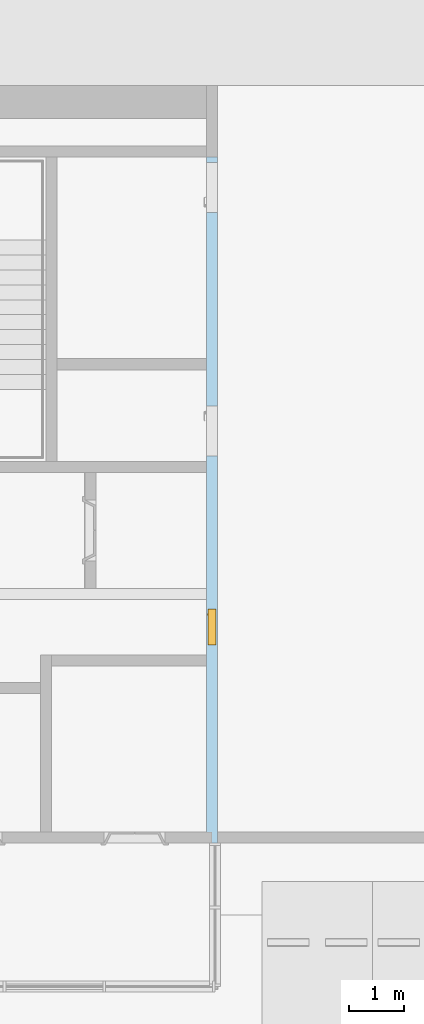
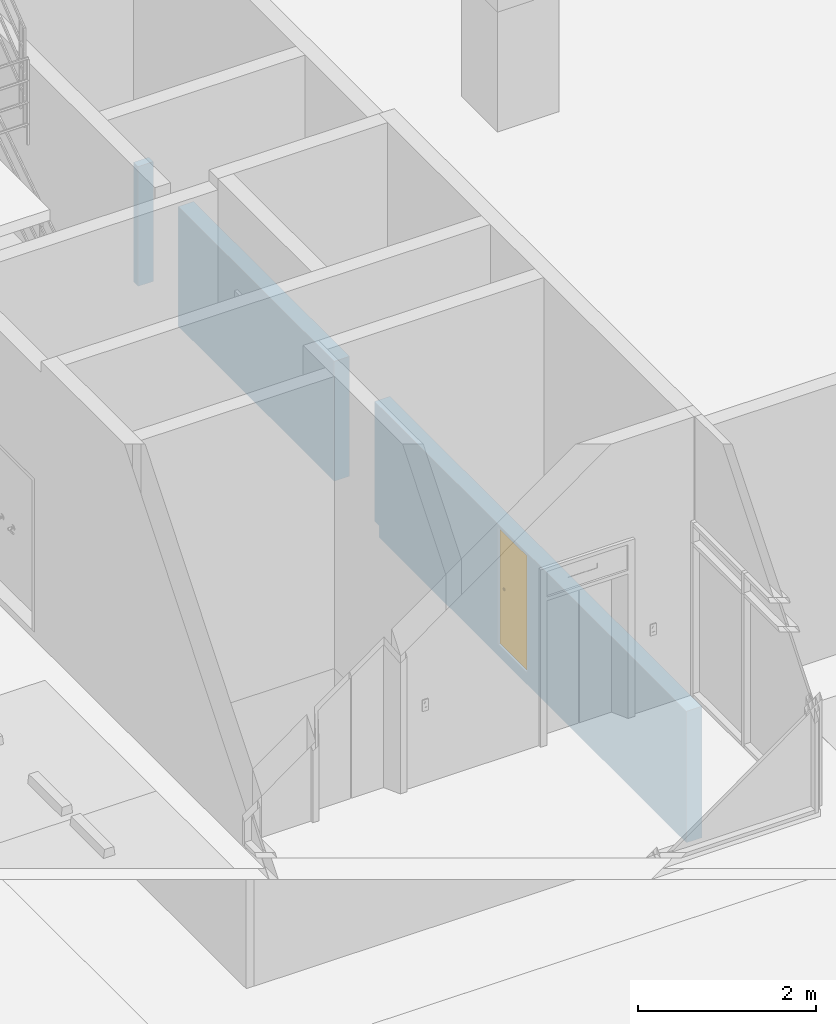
# One storey, part 23 of 30: 1 door, 3 openings, plus 1 element that does not belong to this part.
"""IFC2X3 building model written with IfcOpenShell, lengths in millimetres."""

import ifcopenshell
import ifcopenshell.guid

model = None  # the IFC model being written
_history = None  # IfcOwnerHistory: only IFC2X3 demands one
_inside = {}  # id of a spatial element -> (the spatial element, [elements in it])
_under = {}  # id of a project, library or spatial element -> (it, [spatial elements below it])
_declared = {}  # id of a project -> (the project, [libraries it declares])
_typed = {}  # id of a type object -> (the type object, [elements of that type])
_made_of = {}  # id of a material, layer set ... -> (it, [elements and type objects made of it])


def new_model(schema):
    """Start an empty IFC model of exactly this schema.

    Asked for "IFC4X3", IfcOpenShell would pick the latest addendum, in which some entities
    have other attributes; the version numbers below select the first issue.
    IFC2X3 requires an IfcOwnerHistory on every rooted entity: one is made here for all.
    """
    global model, _history
    if schema == "IFC4X3":
        model = ifcopenshell.file(schema_version=(4, 3, 0, 0))
    else:
        model = ifcopenshell.file(schema=schema)
    _inside.clear()
    _under.clear()
    _declared.clear()
    _typed.clear()
    _made_of.clear()
    _history = None
    if model.schema == "IFC2X3":
        org = make("IfcOrganization", Name="unknown")
        user = make(
            "IfcPersonAndOrganization",
            ThePerson=make("IfcPerson", FamilyName="unknown"),
            TheOrganization=org,
        )
        app = make(
            "IfcApplication",
            ApplicationDeveloper=org,
            Version="unknown",
            ApplicationFullName="unknown",
            ApplicationIdentifier="unknown",
        )
        _history = make(
            "IfcOwnerHistory",
            OwningUser=user,
            OwningApplication=app,
            ChangeAction="ADDED",
            CreationDate=0,
        )
    return model


def make(cls, **values):
    """One entity of the class cls with the attributes given. An attribute that is None is left unset."""
    return model.create_entity(
        cls, **{name: value for name, value in values.items() if value is not None}
    )


def entity(cls, *values):
    """Any entity or typed value of the class cls, its attributes in the order of the schema. None: left unset."""
    e = model.create_entity(cls)
    for i, value in enumerate(values):
        if value is not None:
            e[i] = value
    return e


def rooted(cls, **values):
    """An entity with a GlobalId (a new one), such as an element, a storey or a relation."""
    return make(cls, GlobalId=ifcopenshell.guid.new(), OwnerHistory=_history, **values)


def si_unit(unit_type, name, prefix=None):
    """IfcSIUnit, for example si_unit("LENGTHUNIT", "METRE", prefix="MILLI")."""
    return make("IfcSIUnit", UnitType=unit_type, Prefix=prefix, Name=name)


def converted_unit(unit_type, name, factor, base, dimensions=None, offset=None):
    """IfcConversionBasedUnit, such as the inch: factor (a typed value) times the base unit."""
    return make(
        "IfcConversionBasedUnit"
        if offset is None
        else "IfcConversionBasedUnitWithOffset",
        ConversionOffset=offset,
        Dimensions=None
        if dimensions is None
        else entity("IfcDimensionalExponents", *dimensions),
        UnitType=unit_type,
        Name=name,
        ConversionFactor=make(
            "IfcMeasureWithUnit", ValueComponent=factor, UnitComponent=base
        ),
    )


def derived_unit(unit_type, elements):
    """IfcDerivedUnit: a product of units, each with its exponent."""
    return make(
        "IfcDerivedUnit",
        Elements=[
            make("IfcDerivedUnitElement", Unit=unit, Exponent=power)
            for unit, power in elements
        ],
        UnitType=unit_type,
    )


def assignment(units):
    """IfcUnitAssignment: the units of a project."""
    return None if units is None else make("IfcUnitAssignment", Units=units)


def point(xyz):
    """IfcCartesianPoint."""
    return None if xyz is None else make("IfcCartesianPoint", Coordinates=xyz)


def direction(xyz):
    """IfcDirection."""
    return None if xyz is None else make("IfcDirection", DirectionRatios=xyz)


def frame(location, z_axis=None, x_axis=None):
    """IfcAxis2Placement3D, a coordinate frame: its origin and axes. An axis left out is left unset."""
    return make(
        "IfcAxis2Placement3D",
        Location=point(location),
        Axis=direction(z_axis),
        RefDirection=direction(x_axis),
    )


def frame_2d(location, x_axis=None):
    """IfcAxis2Placement2D, a coordinate frame in the plane: its origin and x axis."""
    return make(
        "IfcAxis2Placement2D", Location=point(location), RefDirection=direction(x_axis)
    )


def origin():
    """The frame at (0, 0, 0) with its axes left unset."""
    return frame((0.0, 0.0, 0.0))


def place(relative_to, where):
    """IfcLocalPlacement: puts the frame where relative to a parent placement (None: the world)."""
    return make(
        "IfcLocalPlacement", PlacementRelTo=relative_to, RelativePlacement=where
    )


def context(
    kind, dimensions, precision=None, world=None, true_north=None, identifier=None
):
    """IfcGeometricRepresentationContext, for example the 3D "Model" context."""
    return make(
        "IfcGeometricRepresentationContext",
        ContextIdentifier=identifier,
        ContextType=kind,
        CoordinateSpaceDimension=dimensions,
        Precision=precision,
        WorldCoordinateSystem=world,
        TrueNorth=true_north,
    )


def subcontext(parent, identifier, kind, view, scale=None):
    """IfcGeometricRepresentationSubContext, for example "Body" below "Model"."""
    return make(
        "IfcGeometricRepresentationSubContext",
        ContextIdentifier=identifier,
        ContextType=kind,
        ParentContext=parent,
        TargetScale=scale,
        TargetView=view,
    )


def project(units=None, contexts=None):
    """IfcProject with its units and contexts."""
    return rooted(
        "IfcProject",
        Name="project",
        RepresentationContexts=contexts,
        UnitsInContext=assignment(units),
    )


def spatial(cls, under=None, at=None, **own):
    """A site, building, storey or space (cls), placed at a placement, below another one or the project."""
    s = rooted(cls, ObjectPlacement=at, **own)
    if under is not None:
        _under.setdefault(under.id(), (under, []))[1].append(s)
    return s


def profile(cls, at=None, kind="AREA", **sizes):
    """A parametric profile (cls). Its sizes go by their IFC names, for example OverallWidth=200.0."""
    return make(cls, ProfileType=kind, Position=at, **sizes)


def rectangle(**sizes):
    """IfcRectangleProfileDef."""
    return profile("IfcRectangleProfileDef", **sizes)


def extrude(swept, where, along, depth):
    """IfcExtrudedAreaSolid: the profile swept, set in the frame where, extruded along a direction by depth."""
    return make(
        "IfcExtrudedAreaSolid",
        SweptArea=swept,
        Position=where,
        ExtrudedDirection=direction(along),
        Depth=depth,
    )


def faces_of(points, faces, orient=None, outer=None):
    """IfcFace entities. A face is a list of loops; a loop is a list of indices into points, from 0.

    orient and outer hold one flag for each loop. By default every Orientation is true, the
    first loop of a face is its IfcFaceOuterBound and the others are IfcFaceBound.
    """
    made = []
    for i, loops in enumerate(faces):
        bounds = []
        for j, loop in enumerate(loops):
            is_outer = j == 0 if outer is None else outer[i][j]
            bounds.append(
                make(
                    "IfcFaceOuterBound" if is_outer else "IfcFaceBound",
                    Bound=make("IfcPolyLoop", Polygon=[points[k] for k in loop]),
                    Orientation=True if orient is None else orient[i][j],
                )
            )
        made.append(make("IfcFace", Bounds=bounds))
    return made


def faceted_brep(points, faces, orient=None, outer=None, voids=None):
    """IfcFacetedBrep: a solid bounded by flat faces; with voids (closed shells), ...WithVoids."""
    shared = [point(p) for p in points]
    hull = make("IfcClosedShell", CfsFaces=faces_of(shared, faces, orient, outer))
    if voids is None:
        return make("IfcFacetedBrep", Outer=hull)
    return make(
        "IfcFacetedBrepWithVoids",
        Outer=hull,
        Voids=[
            make(cls, CfsFaces=faces_of(shared, fs, o, b)) for cls, fs, o, b in voids
        ],
    )


def shape(context_of_items, identifier, shape_type, items):
    """IfcShapeRepresentation: the items that make up one representation, for example the "Body"."""
    return make(
        "IfcShapeRepresentation",
        ContextOfItems=context_of_items,
        RepresentationIdentifier=identifier,
        RepresentationType=shape_type,
        Items=items,
    )


def source(mapping_origin, context_of_items, identifier, shape_type, items):
    """IfcRepresentationMap: a shape defined once, which mapped items show again and again."""
    return make(
        "IfcRepresentationMap",
        MappingOrigin=mapping_origin,
        MappedRepresentation=shape(context_of_items, identifier, shape_type, items),
    )


def transform(
    local_origin,
    x_axis=None,
    y_axis=None,
    z_axis=None,
    scale=None,
    scale2=None,
    scale3=None,
    uniform=True,
):
    """IfcCartesianTransformationOperator3D, or its non-uniform kind. x_axis, y_axis, z_axis: its Axis1, 2, 3."""
    if uniform:
        return make(
            "IfcCartesianTransformationOperator3D",
            Axis1=direction(x_axis),
            Axis2=direction(y_axis),
            LocalOrigin=point(local_origin),
            Scale=scale,
            Axis3=direction(z_axis),
        )
    return make(
        "IfcCartesianTransformationOperator3DnonUniform",
        Axis1=direction(x_axis),
        Axis2=direction(y_axis),
        LocalOrigin=point(local_origin),
        Scale=scale,
        Axis3=direction(z_axis),
        Scale2=scale2,
        Scale3=scale3,
    )


def mapped(mapping_source, mapping_target):
    """IfcMappedItem: shows the shape of a source again, moved by a transform."""
    return make(
        "IfcMappedItem", MappingSource=mapping_source, MappingTarget=mapping_target
    )


def material(Name=None, Category=None):
    """IfcMaterial."""
    return make("IfcMaterial", Name=Name, Category=Category)


def material_list(materials):
    """IfcMaterialList."""
    return make("IfcMaterialList", Materials=materials)


def layer(
    of_material, thickness, ventilated=None, Name=None, Category=None, Priority=None
):
    """IfcMaterialLayer: one layer of a wall or slab, of a material (None: an air gap)."""
    return make(
        "IfcMaterialLayer",
        Material=of_material,
        LayerThickness=thickness,
        IsVentilated=ventilated,
        Name=Name,
        Category=Category,
        Priority=Priority,
    )


def layer_set(layers, Name=None):
    """IfcMaterialLayerSet."""
    return make("IfcMaterialLayerSet", MaterialLayers=layers, LayerSetName=Name)


def made_of(thing, what):
    """Note that an element or type object is made of a material, layer set ...; save() writes the relation."""
    if what is not None:
        _made_of.setdefault(what.id(), (what, []))[1].append(thing)
    return thing


def type_object(cls, material=None, **own):
    """A type object (cls), such as IfcWallType, which elements share."""
    return made_of(rooted(cls, **own), material)


def type_shapes(of_type, sources):
    """Give a type object the sources (RepresentationMaps) that its elements show as mapped items."""
    of_type.RepresentationMaps = sources


def element(
    cls,
    number,
    at=None,
    inside=None,
    cuts=None,
    type_object=None,
    material=None,
    context=None,
    identifier="Body",
    shape_type=None,
    held_by="IfcProductDefinitionShape",
    body=None,
    shapes=None,
    **own,
):
    """One element of the class cls, such as IfcWall. Its Tag is "e" and its number.

    at: its placement. inside: the storey or other place that contains it. cuts: it is an
    opening in that element (IfcRelVoidsElement). A single representation is given by context,
    identifier, shape_type and body (its items); several are given by shapes. held_by: the class
    of the entity that holds the representations. save() writes the other relations.
    """
    e = rooted(cls, Tag="e%d" % number, ObjectPlacement=at, **own)
    if body is not None:
        shapes = [shape(context, identifier, shape_type, body)]
    if shapes is not None:
        e.Representation = make(held_by, Representations=shapes)
    if inside is not None:
        _inside.setdefault(inside.id(), (inside, []))[1].append(e)
    if cuts is not None:
        rooted(
            "IfcRelVoidsElement", RelatingBuildingElement=cuts, RelatedOpeningElement=e
        )
    if type_object is not None:
        _typed.setdefault(type_object.id(), (type_object, []))[1].append(e)
    return made_of(e, material)


def fill(opening, filler):
    """IfcRelFillsElement: the door or window that sits in an opening."""
    return rooted(
        "IfcRelFillsElement",
        RelatingOpeningElement=opening,
        RelatedBuildingElement=filler,
    )


def aggregate(whole, parts):
    """IfcRelAggregates: a whole, such as a stair, and the parts it consists of."""
    return rooted("IfcRelAggregates", RelatingObject=whole, RelatedObjects=parts)


def save(model, path):
    """Write the relations noted so far, then the file.

    IfcRelAggregates (storeys below a building ...), IfcRelContainedInSpatialStructure (elements
    in a storey), IfcRelDefinesByType, IfcRelAssociatesMaterial and IfcRelDeclares: one each for
    every whole, place, type object, material and project.
    """
    for whole, parts in _under.values():
        aggregate(whole, parts)
    for where, things in _inside.values():
        rooted(
            "IfcRelContainedInSpatialStructure",
            RelatedElements=things,
            RelatingStructure=where,
        )
    for kind, things in _typed.values():
        rooted("IfcRelDefinesByType", RelatedObjects=things, RelatingType=kind)
    for what, things in _made_of.values():
        rooted("IfcRelAssociatesMaterial", RelatedObjects=things, RelatingMaterial=what)
    for by, libraries in _declared.values():
        rooted("IfcRelDeclares", RelatingContext=by, RelatedDefinitions=libraries)
    model.write(path)


model = new_model("IFC2X3")

# Units and contexts
model_context = context("Model", 3, precision=0.01, world=origin(), true_north=direction((6.123031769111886e-17, 1.0)))
body_context = subcontext(model_context, "Body", "Model", "MODEL_VIEW")
ifc_project = project(units=[si_unit("LENGTHUNIT", "METRE", prefix="MILLI"), si_unit("AREAUNIT", "SQUARE_METRE"), si_unit("VOLUMEUNIT", "CUBIC_METRE"), converted_unit("PLANEANGLEUNIT", "DEGREE", entity("IfcRatioMeasure", 0.017453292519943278), si_unit("PLANEANGLEUNIT", "RADIAN"), dimensions=[0, 0, 0, 0, 0, 0, 0]), si_unit("MASSUNIT", "GRAM", prefix="KILO"), derived_unit("MASSDENSITYUNIT", [(si_unit("MASSUNIT", "GRAM", prefix="KILO"), 1), (si_unit("LENGTHUNIT", "METRE"), -3)]), derived_unit("MOMENTOFINERTIAUNIT", [(si_unit("LENGTHUNIT", "METRE"), 4)]), si_unit("TIMEUNIT", "SECOND"), si_unit("FREQUENCYUNIT", "HERTZ"), si_unit("THERMODYNAMICTEMPERATUREUNIT", "DEGREE_CELSIUS"), derived_unit("THERMALTRANSMITTANCEUNIT", [(si_unit("MASSUNIT", "GRAM", prefix="KILO"), 1), (si_unit("THERMODYNAMICTEMPERATUREUNIT", "KELVIN"), -1), (si_unit("TIMEUNIT", "SECOND"), -3)]), derived_unit("VOLUMETRICFLOWRATEUNIT", [(si_unit("LENGTHUNIT", "METRE"), 3), (si_unit("TIMEUNIT", "SECOND"), -1)]), derived_unit("MASSFLOWRATEUNIT", [(si_unit("MASSUNIT", "GRAM", prefix="KILO"), 1), (si_unit("TIMEUNIT", "SECOND"), -1)]), derived_unit("ROTATIONALFREQUENCYUNIT", [(si_unit("TIMEUNIT", "SECOND"), -1)]), si_unit("ELECTRICCURRENTUNIT", "AMPERE"), si_unit("ELECTRICVOLTAGEUNIT", "VOLT"), si_unit("POWERUNIT", "WATT"), si_unit("FORCEUNIT", "NEWTON", prefix="KILO"), si_unit("ILLUMINANCEUNIT", "LUX"), si_unit("LUMINOUSFLUXUNIT", "LUMEN"), si_unit("LUMINOUSINTENSITYUNIT", "CANDELA"), derived_unit("USERDEFINED", [(si_unit("MASSUNIT", "GRAM", prefix="KILO"), -1), (si_unit("LENGTHUNIT", "METRE"), -2), (si_unit("TIMEUNIT", "SECOND"), 3), (si_unit("LUMINOUSFLUXUNIT", "LUMEN"), 1)]), derived_unit("SOUNDPOWERUNIT", [(si_unit("MASSUNIT", "GRAM", prefix="KILO"), 1), (si_unit("LENGTHUNIT", "METRE"), 2), (si_unit("TIMEUNIT", "SECOND"), -3)]), derived_unit("SOUNDPRESSUREUNIT", [(si_unit("MASSUNIT", "GRAM", prefix="KILO"), 1), (si_unit("LENGTHUNIT", "METRE"), -1), (si_unit("TIMEUNIT", "SECOND"), -2)]), derived_unit("LINEARVELOCITYUNIT", [(si_unit("LENGTHUNIT", "METRE"), 1), (si_unit("TIMEUNIT", "SECOND"), -1)]), si_unit("PRESSUREUNIT", "PASCAL"), derived_unit("USERDEFINED", [(si_unit("LENGTHUNIT", "METRE"), -2), (si_unit("MASSUNIT", "GRAM", prefix="KILO"), 1), (si_unit("TIMEUNIT", "SECOND"), -2)]), derived_unit("LINEARFORCEUNIT", [(si_unit("MASSUNIT", "GRAM", prefix="KILO"), 1), (si_unit("LENGTHUNIT", "METRE"), 1), (si_unit("TIMEUNIT", "SECOND"), -2), (si_unit("LENGTHUNIT", "METRE"), -1)]), derived_unit("PLANARFORCEUNIT", [(si_unit("MASSUNIT", "GRAM", prefix="KILO"), 1), (si_unit("LENGTHUNIT", "METRE"), 1), (si_unit("TIMEUNIT", "SECOND"), -2), (si_unit("LENGTHUNIT", "METRE"), -2)])], contexts=[model_context])

# Site, building, storey
site_placement = place(None, frame((-14167.972527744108, -657.2125860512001, 0.0)))
site = spatial("IfcSite", under=ifc_project, at=site_placement, Name="Default", CompositionType="ELEMENT")
building_placement = place(site_placement, origin())
building = spatial("IfcBuilding", under=site, at=building_placement, Name="Sample Building", CompositionType="ELEMENT")
storey_placement = place(building_placement, frame((0.0, 0.0, -10100.0)))
storey = spatial("IfcBuildingStorey", under=building, at=storey_placement, Name="지하2층", CompositionType="ELEMENT", Elevation=-10100.0)

# Wall, openings, door
ifc_material_1 = material(Name="KBIMS-콘크리트")
ifc_layer = layer(ifc_material_1, 200.0)
ifc_layer_set = layer_set([ifc_layer], Name="기본 벽:WA111-철근콘크리트구조 벽 200mm_CW1")
wall_type = type_object("IfcWallType", Name="기본 벽:WA111-철근콘크리트구조 벽 200mm_CW1", PredefinedType="STANDARD", material=ifc_layer_set)
wall_placement = place(storey_placement, frame((35867.97249113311, 15557.21230798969, -1800.0), z_axis=(0.0, 0.0, 1.0), x_axis=(0.0, 1.0, 0.0)))
wall = element("IfcWall", 1, at=wall_placement, inside=storey, type_object=wall_type, Name="기본 벽:WA111-철근콘크리트구조 벽 200mm_CW1", ObjectType="기본 벽:WA111-철근콘크리트구조 벽 200mm_CW1", context=body_context, shape_type="Brep", body=[
    faceted_brep([(7000.0, -100.0, 160.0), (7000.0, -100.0, 1800.0), (0.0, -100.0, 1800.0), (0.0, -100.0, 160.0), (0.0, -100.0, 0.0), (6900.0, -100.0, 0.0), (6900.0, -100.0, 160.0), (3575.0, -100.0, 160.0), (3575.0, -100.0, 1760.0), (4225.0, -100.0, 1760.0), (4225.0, -100.0, 160.0), (0.0, 100.0, 0.0), (6900.0, 100.0, 0.0), (6900.0, 100.0, 160.0), (7000.0, 100.0, 160.0), (0.0, 100.0, 1800.0), (7000.0, 100.0, 1800.0), (3575.0, 100.0, 160.0), (3575.0, 100.0, 1760.0), (4225.0, 100.0, 1760.0), (4225.0, 100.0, 160.0)], [[[0, 1, 2, 3, 4, 5, 6], [7, 8, 9, 10]], [[4, 11, 12, 5]], [[6, 13, 14, 0]], [[15, 11, 4, 3, 2]], [[13, 6, 5, 12]], [[1, 0, 14, 16]], [[8, 7, 17, 18]], [[10, 9, 19, 20]], [[7, 10, 20, 17]], [[8, 18, 19, 9]], [[1, 16, 15, 2]], [[11, 15, 16, 14, 13, 12], [18, 17, 20, 19]]]),
    faceted_brep([(12300.0, 100.0, 160.0), (12300.0, 100.0, 1800.0), (12400.0, 100.0, 1800.0), (12400.0, 100.0, 160.0), (12400.0, -100.0, 1800.0), (12400.0, -100.0, 160.0), (12300.0, -100.0, 160.0), (12300.0, -100.0, 1800.0)], [[[0, 1, 2, 3]], [[2, 4, 5, 3]], [[6, 7, 1, 0]], [[5, 6, 0, 3]], [[1, 7, 4, 2]], [[7, 6, 5, 4]]]),
    faceted_brep([(11400.0, -100.0, 1800.0), (11400.0, 100.0, 1800.0), (7900.0, 100.0, 1800.0), (7900.0, -100.0, 1800.0), (11400.0, -100.0, 160.0), (11400.0, 100.0, 160.0), (7900.0, -100.0, 160.0), (7900.0, 100.0, 160.0)], [[[0, 1, 2, 3]], [[0, 4, 5, 1]], [[6, 3, 2, 7]], [[4, 6, 7, 5]], [[1, 5, 7, 2]], [[4, 0, 3, 6]]]),
])
opening_1_placement = place(wall_placement, frame((11400.0, -100.0, 160.0)))
element("IfcOpeningElement", 2, at=opening_1_placement, cuts=wall, Name="DR111-외여닫이문(철재, 일반):DR111-외여닫이문(철재, 일반) 900x2100mm:1", ObjectType="Opening", context=body_context, shape_type="SweptSolid", body=[
    extrude(rectangle(XDim=2099.999999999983, YDim=900.0000000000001, at=frame_2d((1049.999999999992, 450.00000000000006), x_axis=(1.0, 0.0))), frame((0.0, 0.0, 0.0), z_axis=(0.0, 1.0, 0.0), x_axis=(0.0, 0.0, 1.0)), (0.0, 0.0, 1.0), 200.0),
])
opening_2_placement = place(wall_placement, frame((7000.0, -100.0, 160.0)))
element("IfcOpeningElement", 3, at=opening_2_placement, cuts=wall, Name="DR111-외여닫이문(철재, 일반):DR111-외여닫이문(철재, 일반) 900x2100mm:1", ObjectType="Opening", context=body_context, shape_type="SweptSolid", body=[
    extrude(rectangle(XDim=2099.999999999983, YDim=900.0000000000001, at=frame_2d((1049.999999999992, 450.00000000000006), x_axis=(1.0, 0.0))), frame((0.0, 0.0, 0.0), z_axis=(0.0, 1.0, 0.0), x_axis=(0.0, 0.0, 1.0)), (0.0, 0.0, 1.0), 200.0),
])
opening_3_placement = place(wall_placement, frame((3575.0, -100.0, 160.0)))
opening_3 = element("IfcOpeningElement", 4, at=opening_3_placement, cuts=wall, Name="DR872-샤프트 점검구(스테인리스 스틸):DR872-샤프트 점검구(스테인리스 스틸)_650x1600:1", ObjectType="Opening", context=body_context, shape_type="SweptSolid", body=[
    extrude(rectangle(XDim=1600.0, YDim=649.9999999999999, at=frame_2d((800.0, 325.00000000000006), x_axis=(1.0, 0.0))), frame((0.0, 0.0, 0.0), z_axis=(0.0, 1.0, 0.0), x_axis=(0.0, 0.0, 1.0)), (0.0, 0.0, 1.0), 200.0),
])
ifc_material_2 = material(Name="KBIMS-스테인리스 스틸_도금")
ifc_material_list_1 = material_list([ifc_material_2, ifc_material_2, ifc_material_2, ifc_material_2])
ifc_material_list_2 = material_list([ifc_material_2, ifc_material_2, ifc_material_2, ifc_material_2])
door_style = type_object("IfcDoorStyle", Name="DR872-샤프트 점검구(스테인리스 스틸):DR872-샤프트 점검구(스테인리스 스틸)_650x1600", ConstructionType="NOTDEFINED", OperationType="SINGLE_SWING_RIGHT", ParameterTakesPrecedence=False, Sizeable=False, material=ifc_material_list_2)
shared_shape = source(origin(), body_context, "Body", "Brep", [
    faceted_brep([(547.5000000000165, 125.0, 787.0096189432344), (540.8578643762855, 125.0, 785.85786437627), (545.0, 125.0, 782.6794919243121), (544.3933982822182, 125.0, 789.3933982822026), (551.1177143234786, 125.0, 785.5111126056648), (537.6794919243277, 125.0, 790.0), (542.0096189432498, 125.0, 792.5000000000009), (540.5111126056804, 125.0, 796.1177143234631), (535.6814834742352, 125.0, 794.8236190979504), (540.0, 125.0, 800.0), (535.0, 125.0, 800.0), (540.5111126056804, 125.0, 803.8822856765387), (535.681483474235, 125.0, 805.1763809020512), (542.0096189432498, 125.0, 807.5000000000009), (537.6794919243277, 125.0, 810.0), (544.3933982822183, 125.0, 810.6066017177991), (540.8578643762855, 125.0, 814.1421356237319), (547.5000000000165, 125.0, 812.9903810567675), (545.0, 125.0, 817.3205080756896), (551.1177143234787, 125.0, 814.4888873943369), (549.823619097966, 125.0, 819.3185165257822), (555.0, 125.0, 815.0), (555.0, 125.0, 820.0), (558.8822856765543, 125.0, 814.4888873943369), (560.1763809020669, 125.0, 819.3185165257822), (562.5000000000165, 125.0, 812.9903810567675), (565.0, 125.0, 817.3205080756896), (565.6066017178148, 125.0, 810.6066017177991), (569.1421356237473, 125.0, 814.142135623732), (567.9903810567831, 125.0, 807.5000000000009), (572.3205080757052, 125.0, 810.0), (574.3185165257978, 125.0, 805.1763809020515), (569.4888873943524, 125.0, 803.8822856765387), (575.0, 125.0, 800.0), (570.0, 125.0, 800.0), (574.3185165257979, 125.0, 794.8236190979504), (569.4888873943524, 125.0, 796.117714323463), (572.3205080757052, 125.0, 790.0), (567.990381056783, 125.0, 792.5000000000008), (569.1421356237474, 125.0, 785.85786437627), (565.6066017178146, 125.0, 789.3933982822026), (565.0, 125.0, 782.6794919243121), (562.5000000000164, 125.0, 787.0096189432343), (560.176380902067, 125.0, 780.6814834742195), (558.8822856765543, 125.0, 785.5111126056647), (555.0, 125.0, 780.0), (555.0, 125.0, 785.0), (549.8236190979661, 125.0, 780.6814834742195), (547.5000000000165, 130.0, 812.9903810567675), (540.8578643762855, 130.0, 814.1421356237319), (545.0, 130.0, 817.3205080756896), (544.3933982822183, 130.0, 810.6066017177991), (551.1177143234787, 130.0, 814.4888873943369), (537.6794919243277, 130.0, 810.0), (542.0096189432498, 130.0, 807.5000000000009), (540.5111126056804, 130.0, 803.8822856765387), (535.681483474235, 130.0, 805.1763809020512), (540.0, 130.0, 800.0), (535.0, 130.0, 800.0), (540.5111126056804, 130.0, 796.1177143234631), (535.6814834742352, 130.0, 794.8236190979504), (542.0096189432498, 130.0, 792.5000000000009), (537.6794919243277, 130.0, 790.0), (544.3933982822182, 130.0, 789.3933982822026), (540.8578643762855, 130.0, 785.85786437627), (547.5000000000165, 130.0, 787.0096189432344), (545.0, 130.0, 782.6794919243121), (551.1177143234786, 130.0, 785.5111126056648), (549.8236190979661, 130.0, 780.6814834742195), (555.0, 130.0, 785.0), (555.0, 130.0, 780.0), (558.8822856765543, 130.0, 785.5111126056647), (560.176380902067, 130.0, 780.6814834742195), (562.5000000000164, 130.0, 787.0096189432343), (565.0, 130.0, 782.6794919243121), (565.6066017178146, 130.0, 789.3933982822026), (569.1421356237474, 130.0, 785.85786437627), (567.990381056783, 130.0, 792.5000000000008), (572.3205080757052, 130.0, 790.0), (574.3185165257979, 130.0, 794.8236190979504), (569.4888873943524, 130.0, 796.117714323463), (575.0, 130.0, 800.0), (570.0, 130.0, 800.0), (574.3185165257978, 130.0, 805.1763809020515), (569.4888873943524, 130.0, 803.8822856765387), (572.3205080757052, 130.0, 810.0), (567.9903810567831, 130.0, 807.5000000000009), (569.1421356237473, 130.0, 814.142135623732), (565.6066017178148, 130.0, 810.6066017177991), (565.0, 130.0, 817.3205080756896), (562.5000000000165, 130.0, 812.9903810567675), (560.1763809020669, 130.0, 819.3185165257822), (558.8822856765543, 130.0, 814.4888873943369), (555.0, 130.0, 820.0), (555.0, 130.0, 815.0), (549.823619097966, 130.0, 819.3185165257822)], [[[0, 1, 2]], [[3, 1, 0]], [[4, 0, 2]], [[1, 3, 5]], [[5, 3, 6]], [[5, 6, 7]], [[8, 5, 7]], [[9, 8, 7]], [[10, 8, 9]], [[10, 9, 11]], [[12, 10, 11]], [[12, 11, 13]], [[14, 12, 13]], [[14, 13, 15]], [[15, 16, 14]], [[15, 17, 16]], [[18, 16, 17]], [[19, 18, 17]], [[18, 19, 20]], [[21, 20, 19]], [[22, 20, 21]], [[21, 23, 22]], [[24, 22, 23]], [[25, 24, 23]], [[24, 25, 26]], [[25, 27, 26]], [[27, 28, 26]], [[28, 27, 29]], [[28, 29, 30]], [[30, 29, 31]], [[31, 29, 32]], [[33, 31, 32]], [[32, 34, 33]], [[33, 34, 35]], [[34, 36, 35]], [[37, 35, 36]], [[37, 36, 38]], [[39, 37, 38]], [[40, 39, 38]], [[40, 41, 39]], [[42, 41, 40]], [[43, 41, 42]], [[42, 44, 43]], [[43, 44, 45]], [[46, 45, 44]], [[46, 4, 47]], [[45, 46, 47]], [[2, 47, 4]], [[48, 49, 50]], [[51, 49, 48]], [[52, 48, 50]], [[49, 51, 53]], [[53, 51, 54]], [[53, 54, 55]], [[56, 53, 55]], [[57, 56, 55]], [[58, 56, 57]], [[58, 57, 59]], [[60, 58, 59]], [[60, 59, 61]], [[62, 60, 61]], [[62, 61, 63]], [[63, 64, 62]], [[63, 65, 64]], [[66, 64, 65]], [[67, 66, 65]], [[66, 67, 68]], [[69, 68, 67]], [[70, 68, 69]], [[69, 71, 70]], [[72, 70, 71]], [[73, 72, 71]], [[72, 73, 74]], [[73, 75, 74]], [[75, 76, 74]], [[76, 75, 77]], [[76, 77, 78]], [[78, 77, 79]], [[79, 77, 80]], [[81, 79, 80]], [[80, 82, 81]], [[81, 82, 83]], [[82, 84, 83]], [[85, 83, 84]], [[85, 84, 86]], [[87, 85, 86]], [[88, 87, 86]], [[88, 89, 87]], [[90, 89, 88]], [[91, 89, 90]], [[90, 92, 91]], [[91, 92, 93]], [[94, 93, 92]], [[94, 52, 95]], [[93, 94, 95]], [[50, 95, 52]], [[7, 59, 57, 9]], [[6, 61, 59, 7]], [[63, 3, 0, 65]], [[6, 3, 63, 61]], [[65, 0, 4, 67]], [[67, 4, 46, 69]], [[42, 73, 71, 44]], [[40, 75, 73, 42]], [[77, 38, 36, 80]], [[40, 38, 77, 75]], [[80, 36, 34, 82]], [[71, 69, 46, 44]], [[32, 84, 82, 34]], [[29, 86, 84, 32]], [[88, 27, 25, 90]], [[29, 27, 88, 86]], [[90, 25, 23, 92]], [[92, 23, 21, 94]], [[17, 48, 52, 19]], [[15, 51, 48, 17]], [[54, 13, 11, 55]], [[15, 13, 54, 51]], [[55, 11, 9, 57]], [[52, 94, 21, 19]], [[58, 10, 12, 56]], [[56, 12, 14, 53]], [[50, 49, 16, 18]], [[16, 49, 53, 14]], [[95, 50, 18, 20]], [[95, 20, 22, 93]], [[93, 22, 24, 91]], [[91, 24, 26, 89]], [[85, 87, 28, 30]], [[28, 87, 89, 26]], [[83, 85, 30, 31]], [[83, 31, 33, 81]], [[81, 33, 35, 79]], [[79, 35, 37, 78]], [[74, 76, 39, 41]], [[39, 76, 78, 37]], [[72, 74, 41, 43]], [[72, 43, 45, 70]], [[70, 45, 47, 68]], [[68, 47, 2, 66]], [[62, 64, 1, 5]], [[1, 64, 66, 2]], [[60, 62, 5, 8]], [[60, 8, 10, 58]]]),
    faceted_brep([(562.5000000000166, 180.0, 787.0096189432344), (569.1421356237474, 180.0, 785.85786437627), (565.0, 180.0, 782.6794919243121), (565.6066017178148, 180.0, 789.3933982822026), (558.8822856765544, 180.0, 785.5111126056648), (572.3205080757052, 180.0, 790.0), (567.9903810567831, 180.0, 792.5000000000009), (569.4888873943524, 180.0, 796.1177143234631), (574.3185165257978, 180.0, 794.8236190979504), (570.0, 180.0, 800.0), (575.0, 180.0, 800.0), (569.4888873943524, 180.0, 803.8822856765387), (574.3185165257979, 180.0, 805.1763809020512), (567.990381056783, 180.0, 807.5000000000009), (572.3205080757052, 180.0, 810.0), (565.6066017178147, 180.0, 810.6066017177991), (569.1421356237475, 180.0, 814.1421356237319), (562.5000000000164, 180.0, 812.9903810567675), (565.0, 180.0, 817.3205080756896), (558.8822856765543, 180.0, 814.4888873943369), (560.176380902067, 180.0, 819.3185165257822), (555.0, 180.0, 815.0), (555.0, 180.0, 820.0), (551.1177143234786, 180.0, 814.4888873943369), (549.8236190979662, 180.0, 819.3185165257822), (547.5000000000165, 180.0, 812.9903810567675), (545.0, 180.0, 817.3205080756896), (544.3933982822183, 180.0, 810.6066017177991), (540.8578643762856, 180.0, 814.142135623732), (542.0096189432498, 180.0, 807.5000000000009), (537.6794919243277, 180.0, 810.0), (535.6814834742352, 180.0, 805.1763809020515), (540.5111126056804, 180.0, 803.8822856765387), (535.0, 180.0, 800.0), (540.0, 180.0, 800.0), (535.681483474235, 180.0, 794.8236190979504), (540.5111126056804, 180.0, 796.117714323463), (537.6794919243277, 180.0, 790.0), (542.00961894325, 180.0, 792.5000000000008), (540.8578643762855, 180.0, 785.85786437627), (544.3933982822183, 180.0, 789.3933982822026), (545.0, 180.0, 782.6794919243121), (547.5000000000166, 180.0, 787.0096189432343), (549.823619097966, 180.0, 780.6814834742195), (551.1177143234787, 180.0, 785.5111126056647), (555.0, 180.0, 780.0), (555.0, 180.0, 785.0), (560.1763809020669, 180.0, 780.6814834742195), (562.5000000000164, 175.0, 812.9903810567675), (569.1421356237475, 175.0, 814.1421356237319), (565.0, 175.0, 817.3205080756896), (565.6066017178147, 175.0, 810.6066017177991), (558.8822856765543, 175.0, 814.4888873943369), (572.3205080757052, 175.0, 810.0), (567.990381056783, 175.0, 807.5000000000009), (569.4888873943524, 175.0, 803.8822856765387), (574.3185165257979, 175.0, 805.1763809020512), (570.0, 175.0, 800.0), (575.0, 175.0, 800.0), (569.4888873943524, 175.0, 796.1177143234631), (574.3185165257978, 175.0, 794.8236190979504), (567.9903810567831, 175.0, 792.5000000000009), (572.3205080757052, 175.0, 790.0), (565.6066017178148, 175.0, 789.3933982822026), (569.1421356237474, 175.0, 785.85786437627), (562.5000000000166, 175.0, 787.0096189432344), (565.0, 175.0, 782.6794919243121), (558.8822856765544, 175.0, 785.5111126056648), (560.1763809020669, 175.0, 780.6814834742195), (555.0, 175.0, 785.0), (555.0, 175.0, 780.0), (551.1177143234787, 175.0, 785.5111126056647), (549.823619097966, 175.0, 780.6814834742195), (547.5000000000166, 175.0, 787.0096189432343), (545.0, 175.0, 782.6794919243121), (544.3933982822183, 175.0, 789.3933982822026), (540.8578643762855, 175.0, 785.85786437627), (542.00961894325, 175.0, 792.5000000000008), (537.6794919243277, 175.0, 790.0), (535.681483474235, 175.0, 794.8236190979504), (540.5111126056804, 175.0, 796.117714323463), (535.0, 175.0, 800.0), (540.0, 175.0, 800.0), (535.6814834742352, 175.0, 805.1763809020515), (540.5111126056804, 175.0, 803.8822856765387), (537.6794919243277, 175.0, 810.0), (542.0096189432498, 175.0, 807.5000000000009), (540.8578643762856, 175.0, 814.142135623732), (544.3933982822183, 175.0, 810.6066017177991), (545.0, 175.0, 817.3205080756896), (547.5000000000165, 175.0, 812.9903810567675), (549.8236190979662, 175.0, 819.3185165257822), (551.1177143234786, 175.0, 814.4888873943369), (555.0, 175.0, 820.0), (555.0, 175.0, 815.0), (560.176380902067, 175.0, 819.3185165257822)], [[[0, 1, 2]], [[3, 1, 0]], [[4, 0, 2]], [[1, 3, 5]], [[5, 3, 6]], [[5, 6, 7]], [[8, 5, 7]], [[9, 8, 7]], [[10, 8, 9]], [[10, 9, 11]], [[12, 10, 11]], [[12, 11, 13]], [[14, 12, 13]], [[14, 13, 15]], [[15, 16, 14]], [[15, 17, 16]], [[18, 16, 17]], [[19, 18, 17]], [[18, 19, 20]], [[21, 20, 19]], [[22, 20, 21]], [[21, 23, 22]], [[24, 22, 23]], [[25, 24, 23]], [[24, 25, 26]], [[25, 27, 26]], [[27, 28, 26]], [[28, 27, 29]], [[28, 29, 30]], [[30, 29, 31]], [[31, 29, 32]], [[33, 31, 32]], [[32, 34, 33]], [[33, 34, 35]], [[34, 36, 35]], [[37, 35, 36]], [[37, 36, 38]], [[39, 37, 38]], [[40, 39, 38]], [[40, 41, 39]], [[42, 41, 40]], [[43, 41, 42]], [[42, 44, 43]], [[43, 44, 45]], [[46, 45, 44]], [[46, 4, 47]], [[45, 46, 47]], [[2, 47, 4]], [[48, 49, 50]], [[51, 49, 48]], [[52, 48, 50]], [[49, 51, 53]], [[53, 51, 54]], [[53, 54, 55]], [[56, 53, 55]], [[57, 56, 55]], [[58, 56, 57]], [[58, 57, 59]], [[60, 58, 59]], [[60, 59, 61]], [[62, 60, 61]], [[62, 61, 63]], [[63, 64, 62]], [[63, 65, 64]], [[66, 64, 65]], [[67, 66, 65]], [[66, 67, 68]], [[69, 68, 67]], [[70, 68, 69]], [[69, 71, 70]], [[72, 70, 71]], [[73, 72, 71]], [[72, 73, 74]], [[73, 75, 74]], [[75, 76, 74]], [[76, 75, 77]], [[76, 77, 78]], [[78, 77, 79]], [[79, 77, 80]], [[81, 79, 80]], [[80, 82, 81]], [[81, 82, 83]], [[82, 84, 83]], [[85, 83, 84]], [[85, 84, 86]], [[87, 85, 86]], [[88, 87, 86]], [[88, 89, 87]], [[90, 89, 88]], [[91, 89, 90]], [[90, 92, 91]], [[91, 92, 93]], [[94, 93, 92]], [[94, 52, 95]], [[93, 94, 95]], [[50, 95, 52]], [[32, 84, 82, 34]], [[29, 86, 84, 32]], [[88, 27, 25, 90]], [[29, 27, 88, 86]], [[90, 25, 23, 92]], [[92, 23, 21, 94]], [[17, 48, 52, 19]], [[15, 51, 48, 17]], [[54, 13, 11, 55]], [[15, 13, 54, 51]], [[55, 11, 9, 57]], [[52, 94, 21, 19]], [[7, 59, 57, 9]], [[6, 61, 59, 7]], [[63, 3, 0, 65]], [[6, 3, 63, 61]], [[65, 0, 4, 67]], [[67, 4, 46, 69]], [[42, 73, 71, 44]], [[40, 75, 73, 42]], [[77, 38, 36, 80]], [[40, 38, 77, 75]], [[80, 36, 34, 82]], [[71, 69, 46, 44]], [[81, 33, 35, 79]], [[79, 35, 37, 78]], [[74, 76, 39, 41]], [[39, 76, 78, 37]], [[72, 74, 41, 43]], [[72, 43, 45, 70]], [[70, 45, 47, 68]], [[68, 47, 2, 66]], [[62, 64, 1, 5]], [[1, 64, 66, 2]], [[60, 62, 5, 8]], [[60, 8, 10, 58]], [[58, 10, 12, 56]], [[56, 12, 14, 53]], [[50, 49, 16, 18]], [[16, 49, 53, 14]], [[95, 50, 18, 20]], [[95, 20, 22, 93]], [[93, 22, 24, 91]], [[91, 24, 26, 89]], [[85, 87, 28, 30]], [[28, 87, 89, 26]], [[83, 85, 30, 31]], [[83, 31, 33, 81]]]),
    faceted_brep([(30.0, 175.0, 1570.0), (30.0, 130.0, 1570.0), (620.0, 130.0, 1570.0), (620.0, 175.0, 1570.0), (30.0, 175.0, 30.0), (620.0, 175.0, 30.0), (620.0, 130.0, 30.0), (30.0, 130.0, 30.0)], [[[0, 1, 2, 3]], [[4, 5, 6, 7]], [[3, 5, 4, 0]], [[2, 6, 5, 3]], [[1, 7, 6, 2]], [[0, 4, 7, 1]]]),
    faceted_brep([(620.0, 130.0, 1570.0), (30.0, 130.0, 1570.0), (30.0, 175.0, 1570.0), (620.0, 175.0, 1570.0), (590.0, 25.0, 1540.0), (60.0, 25.0, 1540.0), (60.0, 130.0, 1540.0), (590.0, 130.0, 1540.0), (650.0, 175.0, 1600.0), (0.0, 175.0, 1600.0), (0.0, 25.0, 1600.0), (650.0, 25.0, 1600.0), (30.0, 130.0, 30.0), (30.0, 175.0, 30.0), (60.0, 25.0, 60.0), (60.0, 130.0, 60.0), (0.0, 175.0, 0.0), (0.0, 25.0, 0.0), (620.0, 130.0, 30.0), (620.0, 175.0, 30.0), (590.0, 25.0, 60.0), (590.0, 130.0, 60.0), (650.0, 175.0, 0.0), (650.0, 25.0, 0.0)], [[[0, 1, 2, 3]], [[4, 5, 6, 7]], [[8, 9, 10, 11]], [[1, 12, 13, 2]], [[5, 14, 15, 6]], [[9, 16, 17, 10]], [[12, 18, 19, 13]], [[14, 20, 21, 15]], [[16, 22, 23, 17]], [[18, 0, 3, 19]], [[1, 0, 18, 12], [7, 6, 15, 21]], [[20, 4, 7, 21]], [[5, 4, 20, 14], [11, 10, 17, 23]], [[22, 8, 11, 23]], [[3, 2, 13, 19], [9, 8, 22, 16]]], outer=[[True], [True], [True], [True], [True], [True], [True], [True], [True], [True], [True, False], [True], [False, True], [True], [False, True]]),
])
type_shapes(door_style, [shared_shape])
door_placement = place(opening_3_placement, frame((1.6702506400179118e-06, 0.0, 0.0)))
door = element("IfcDoor", 5, at=door_placement, inside=storey, type_object=door_style, material=ifc_material_list_1, Name="DR872-샤프트 점검구(스테인리스 스틸):DR872-샤프트 점검구(스테인리스 스틸)_650x1600", ObjectType="DR872-샤프트 점검구(스테인리스 스틸):DR872-샤프트 점검구(스테인리스 스틸)_650x1600", OverallHeight=1600.0, OverallWidth=649.9999999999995, context=body_context, shape_type="MappedRepresentation", body=[
    mapped(shared_shape, transform((0.0, 0.0, 0.0), scale=1.0)),
])
fill(opening_3, door)

save(model, "model.ifc")
